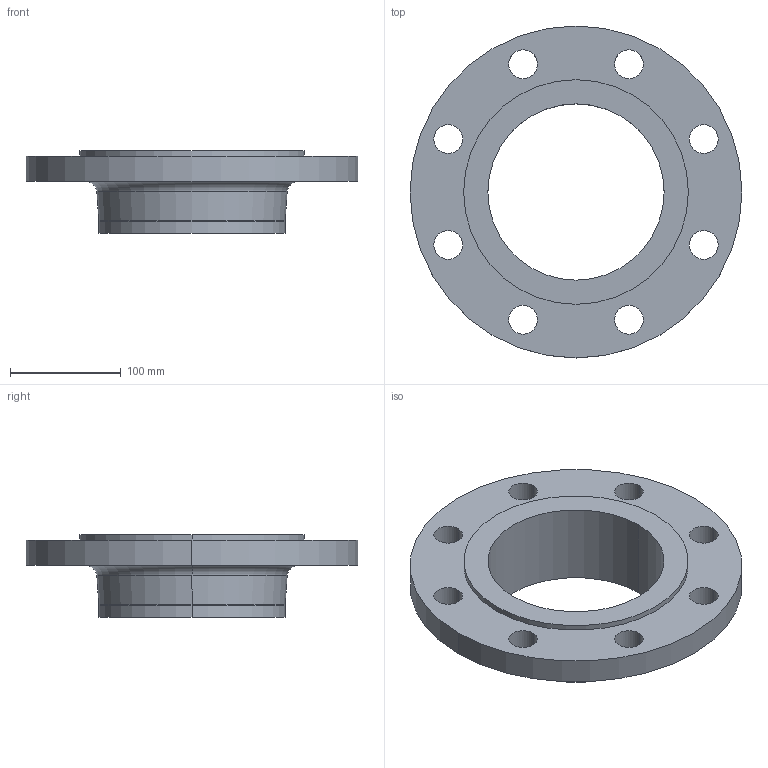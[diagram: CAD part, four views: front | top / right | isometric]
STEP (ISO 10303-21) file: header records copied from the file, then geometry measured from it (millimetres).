
FILE_DESCRIPTION (( 'STEP AP214' ), '1' );
FILE_NAME ('PN40 DN150 Type 11 - Type E Face.STEP', '2019-01-05T00:10:46', ( '' ), ( '' ), 'SwSTEP 2.0', 'SolidWorks 2019', '' );
FILE_SCHEMA (( 'AUTOMOTIVE_DESIGN' ));
Length unit declared in the file: millimetre
Products named in the file (1): PN40 DN150 Type 11 - Type E Face
Bounding box: 300 x 300 x 75 mm (x, y, z)
Volume: 1274789.9 mm3; surface area: 192328.5 mm2
Topology: 1 solids, 1 shells, 34 faces, 84 edges, 54 vertices
Faces by surface type: cylinder 24, torus 4, plane 4, cone 2
Entity records: 1108 total; most frequent: DIRECTION 212, CARTESIAN_POINT 173, ORIENTED_EDGE 168, AXIS2_PLACEMENT_3D 93, EDGE_CURVE 84, CIRCLE 58, VERTEX_POINT 54, EDGE_LOOP 54
